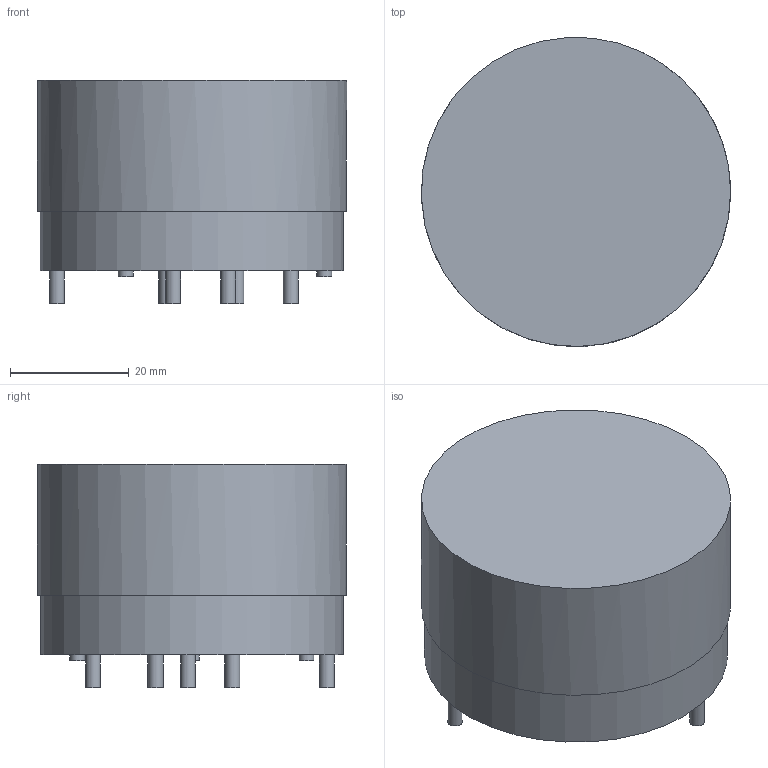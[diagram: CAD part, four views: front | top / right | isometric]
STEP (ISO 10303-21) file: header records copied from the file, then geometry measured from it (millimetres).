
FILE_DESCRIPTION(/* description */ (''),/* implementation_level */ '2;1');
FILE_NAME(/* name */ 'F:\2016年工作\2016年产品图纸\VAC\X2\4EA754C1\X0\3D模型\产品3D模型\6123-X140\6123-X140 3D Model.stp',/* time_stamp */ '2016-06-21T08:18:41+08:00',/* author */ ('CN000560'),/* organization */ (''),/* preprocessor_version */ 'ST-DEVELOPER v16.1',/* originating_system */ 'Autodesk Inventor 2016',/* authorisation */ '');
FILE_SCHEMA (('AUTOMOTIVE_DESIGN { 1 0 10303 214 3 1 1 }'));
Length unit declared in the file: millimetre
Products named in the file (1): 6123-X140 3D Model
Bounding box: 51.98 x 51.96 x 37.5 mm (x, y, z)
Volume: 67291.8 mm3; surface area: 9742.6 mm2
Topology: 1 solids, 1 shells, 24 faces, 37 edges, 25 vertices
Faces by surface type: cylinder 12, plane 12
Full cylindrical faces by diameter (mm): 2.5 x9, 52 x1
Entity records: 518 total; most frequent: DIRECTION 100, CARTESIAN_POINT 75, ORIENTED_EDGE 52, AXIS2_PLACEMENT_3D 49, EDGE_LOOP 44, EDGE_CURVE 26, FACE_OUTER_BOUND 24, CIRCLE 24
